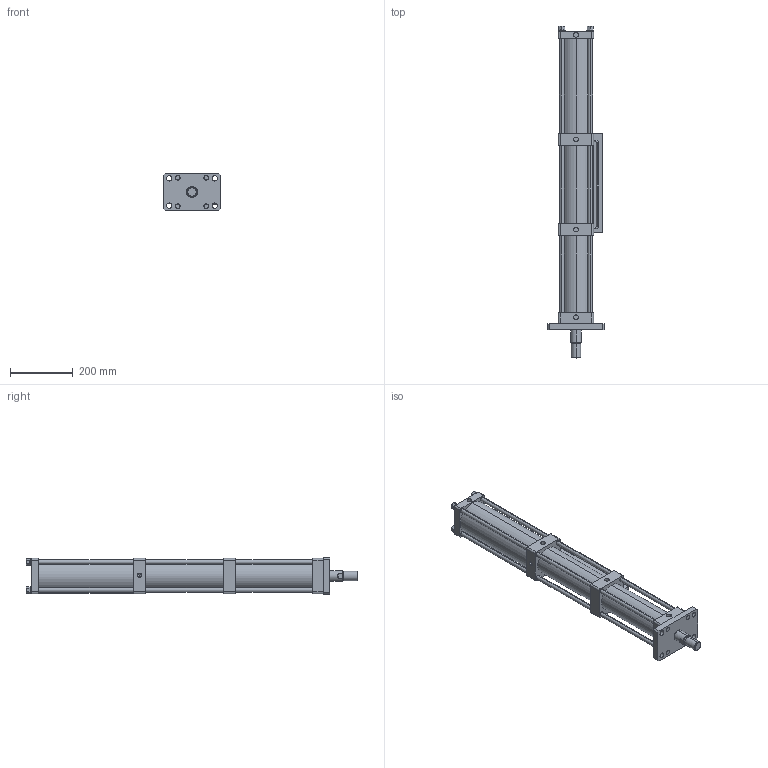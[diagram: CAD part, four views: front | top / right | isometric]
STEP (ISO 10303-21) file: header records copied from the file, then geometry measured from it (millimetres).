
FILE_DESCRIPTION (( 'STEP AP203' ), '1' );
FILE_NAME ('MPTF-80-200-20-5T.STEP', '2016-03-29T10:04:44', ( 'WIN' ), ( '' ), 'SwSTEP 2.0', 'SolidWorks 2014', '' );
FILE_SCHEMA (( 'CONFIG_CONTROL_DESIGN' ));
Length unit declared in the file: millimetre
Products named in the file (1): MPTF-80-200-20-5T
Bounding box: 180 x 1060 x 118 mm (x, y, z)
Volume: 4058208.6 mm3; surface area: 892759.3 mm2
Topology: 5 solids, 5 shells, 266 faces, 632 edges, 413 vertices
Faces by surface type: cylinder 136, plane 120, cone 6, torus 4
Entity records: 7973 total; most frequent: DIRECTION 1448, CARTESIAN_POINT 1382, ORIENTED_EDGE 1260, EDGE_CURVE 630, AXIS2_PLACEMENT_3D 555, VERTEX_POINT 413, EDGE_LOOP 349, VECTOR 338
